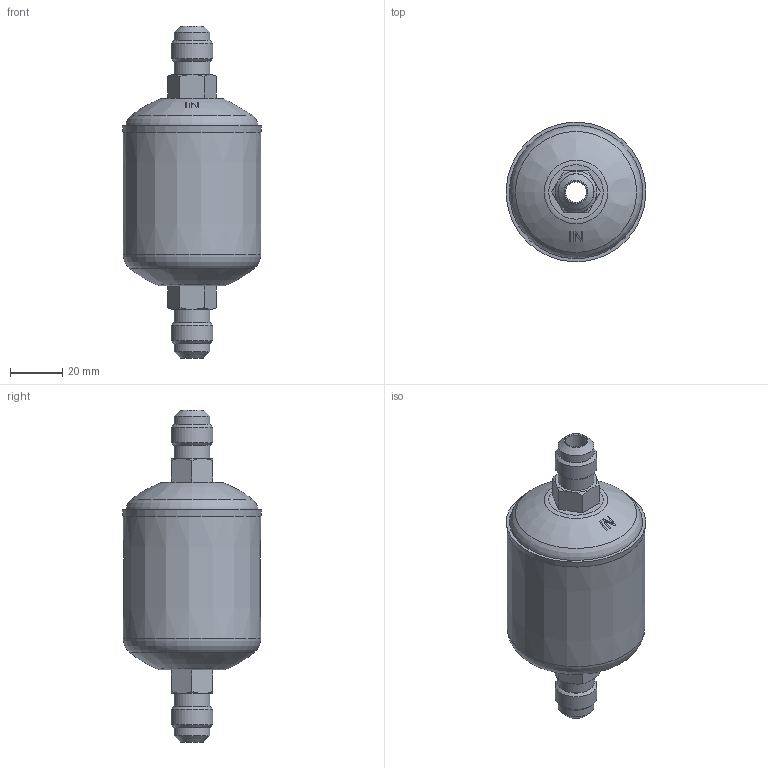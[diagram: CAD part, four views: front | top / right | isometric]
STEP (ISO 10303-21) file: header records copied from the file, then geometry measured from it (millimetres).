
FILE_DESCRIPTION(/* description */ (''),/* implementation_level */ '2;1');
FILE_NAME(/* name */ '4510_3',/* time_stamp */ '2010-01-07T13:22:56+01:00',/* author */ (''),/* organization */ (''),/* preprocessor_version */ 'ST-DEVELOPER v9',/* originating_system */ 'UGS - NX 4.0',/* authorisation */ '');
FILE_SCHEMA (('CONFIG_CONTROL_DESIGN'));
Length unit declared in the file: millimetre
Products named in the file (1): VSal3A4Bv8fo
Bounding box: 53.15 x 53.15 x 126.5 mm (x, y, z)
Volume: 24482.9 mm3; surface area: 31881.9 mm2
Topology: 1 solids, 1 shells, 102 faces, 215 edges, 133 vertices
Faces by surface type: plane 46, cone 30, cylinder 14, torus 8, bspline 4
Full cylindrical faces by diameter (mm): 8 x2, 12.9 x2, 13 x2, 13.7 x4, 15.875 x2, 48.2 x1, 50.6 x1
Entity records: 2648 total; most frequent: CARTESIAN_POINT 665, DIRECTION 380, ORIENTED_EDGE 324, AXIS2_PLACEMENT_3D 171, EDGE_LOOP 166, EDGE_CURVE 162, VERTEX_POINT 124, ADVANCED_FACE 102
